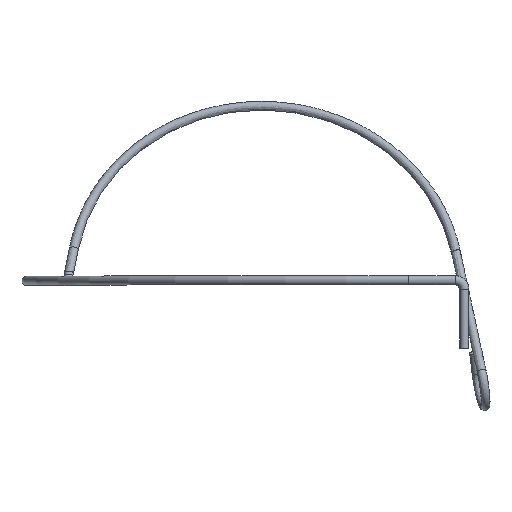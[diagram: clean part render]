
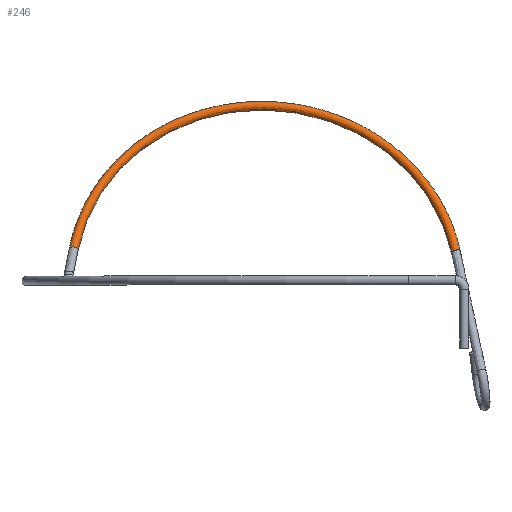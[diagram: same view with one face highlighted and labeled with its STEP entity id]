
A CAD part, top view. The second image highlights one B-rep face of the part: STEP entity #246.
In plain terms, the highlighted free-form (B-spline) face has degree [2, 2] with [9, 5] control points.
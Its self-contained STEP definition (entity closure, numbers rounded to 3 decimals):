
#42=FACE_OUTER_BOUND('',#56,.T.);
#56=EDGE_LOOP('',(#176,#177,#178,#179,#180,#181));
#69=CIRCLE('',#290,1.);
#70=CIRCLE('',#291,1.);
#71=CIRCLE('',#292,1.);
#72=CIRCLE('',#293,1.);
#73=CIRCLE('',#294,42.004);
#99=VERTEX_POINT('',#518);
#100=VERTEX_POINT('',#521);
#101=VERTEX_POINT('',#569);
#102=VERTEX_POINT('',#570);
#127=EDGE_CURVE('',#99,#100,#69,.T.);
#128=EDGE_CURVE('',#100,#99,#70,.T.);
#129=EDGE_CURVE('',#101,#102,#71,.T.);
#130=EDGE_CURVE('',#102,#101,#72,.T.);
#131=EDGE_CURVE('',#101,#100,#73,.T.);
#176=ORIENTED_EDGE('',*,*,#129,.T.);
#177=ORIENTED_EDGE('',*,*,#130,.T.);
#178=ORIENTED_EDGE('',*,*,#131,.T.);
#179=ORIENTED_EDGE('',*,*,#127,.F.);
#180=ORIENTED_EDGE('',*,*,#128,.F.);
#181=ORIENTED_EDGE('',*,*,#131,.F.);
#222=(
BOUNDED_SURFACE()
B_SPLINE_SURFACE(2,2,((#524,#525,#526,#527,#528),(#529,#530,#531,#532,#533),
(#534,#535,#536,#537,#538),(#539,#540,#541,#542,#543),(#544,#545,#546,#547,
#548),(#549,#550,#551,#552,#553),(#554,#555,#556,#557,#558),(#559,#560,
#561,#562,#563),(#564,#565,#566,#567,#568)),.UNSPECIFIED.,.T.,.F.,.F.)
B_SPLINE_SURFACE_WITH_KNOTS((3,2,2,2,3),(3,2,3),(0.,
1.571,3.142,4.712,6.283),(0.,
1.385,2.771),.UNSPECIFIED.)
GEOMETRIC_REPRESENTATION_ITEM()
RATIONAL_B_SPLINE_SURFACE(((1.,0.77,1.,0.77,1.),
(0.707,0.544,0.707,0.544,
0.707),(1.,0.77,1.,0.77,1.),(0.707,
0.544,0.707,0.544,0.707),
(1.,0.77,1.,0.77,1.),(0.707,0.544,
0.707,0.544,0.707),(1.,0.77,
1.,0.77,1.),(0.707,0.544,0.707,
0.544,0.707),(1.,0.77,1.,0.77,
1.)))
REPRESENTATION_ITEM('')
SURFACE()
);
#246=ADVANCED_FACE('',(#42),#222,.T.);
#290=AXIS2_PLACEMENT_3D('',#522,#345,#346);
#291=AXIS2_PLACEMENT_3D('',#523,#347,#348);
#292=AXIS2_PLACEMENT_3D('',#571,#349,#350);
#293=AXIS2_PLACEMENT_3D('',#572,#351,#352);
#294=AXIS2_PLACEMENT_3D('',#573,#353,#354);
#345=DIRECTION('center_axis',(0.278,-0.88,0.385));
#346=DIRECTION('ref_axis',(-0.96,-0.238,0.15));
#347=DIRECTION('center_axis',(0.278,-0.88,0.385));
#348=DIRECTION('ref_axis',(-0.96,-0.238,0.15));
#349=DIRECTION('center_axis',(0.089,0.906,-0.413));
#350=DIRECTION('ref_axis',(0.995,-0.097,0.));
#351=DIRECTION('center_axis',(0.089,0.906,-0.413));
#352=DIRECTION('ref_axis',(0.995,-0.097,0.));
#353=DIRECTION('center_axis',(-0.04,-0.411,-0.911));
#354=DIRECTION('ref_axis',(-0.983,0.178,-0.037));
#518=CARTESIAN_POINT('',(9.111,6.909,-9.554));
#521=CARTESIAN_POINT('',(8.111,6.26,-10.315));
#522=CARTESIAN_POINT('Origin',(9.07,6.498,-10.465));
#523=CARTESIAN_POINT('Origin',(9.07,6.498,-10.465));
#524=CARTESIAN_POINT('Ctrl Pts',(-74.389,7.082,-7.043));
#525=CARTESIAN_POINT('Ctrl Pts',(-68.216,38.245,-21.39));
#526=CARTESIAN_POINT('Ctrl Pts',(-33.387,37.899,-22.771));
#527=CARTESIAN_POINT('Ctrl Pts',(1.442,37.552,-24.153));
#528=CARTESIAN_POINT('Ctrl Pts',(8.111,6.26,-10.315));
#529=CARTESIAN_POINT('Ctrl Pts',(-74.429,6.67,-7.954));
#530=CARTESIAN_POINT('Ctrl Pts',(-68.257,37.834,-22.301));
#531=CARTESIAN_POINT('Ctrl Pts',(-33.427,37.487,-23.682));
#532=CARTESIAN_POINT('Ctrl Pts',(1.402,37.141,-25.063));
#533=CARTESIAN_POINT('Ctrl Pts',(8.07,5.849,-11.226));
#534=CARTESIAN_POINT('Ctrl Pts',(-75.424,6.768,-7.954));
#535=CARTESIAN_POINT('Ctrl Pts',(-69.178,38.684,-22.643));
#536=CARTESIAN_POINT('Ctrl Pts',(-33.524,38.396,-24.088));
#537=CARTESIAN_POINT('Ctrl Pts',(2.131,38.109,-25.533));
#538=CARTESIAN_POINT('Ctrl Pts',(9.03,6.087,-11.375));
#539=CARTESIAN_POINT('Ctrl Pts',(-76.419,6.865,-7.954));
#540=CARTESIAN_POINT('Ctrl Pts',(-70.1,39.533,-22.986));
#541=CARTESIAN_POINT('Ctrl Pts',(-33.62,39.305,-24.494));
#542=CARTESIAN_POINT('Ctrl Pts',(2.86,39.077,-26.002));
#543=CARTESIAN_POINT('Ctrl Pts',(9.99,6.324,-11.525));
#544=CARTESIAN_POINT('Ctrl Pts',(-76.379,7.276,-7.043));
#545=CARTESIAN_POINT('Ctrl Pts',(-70.06,39.944,-22.076));
#546=CARTESIAN_POINT('Ctrl Pts',(-33.58,39.716,-23.584));
#547=CARTESIAN_POINT('Ctrl Pts',(2.9,39.488,-25.091));
#548=CARTESIAN_POINT('Ctrl Pts',(10.03,6.736,-10.615));
#549=CARTESIAN_POINT('Ctrl Pts',(-76.339,7.687,-6.132));
#550=CARTESIAN_POINT('Ctrl Pts',(-70.02,40.356,-21.165));
#551=CARTESIAN_POINT('Ctrl Pts',(-33.54,40.127,-22.673));
#552=CARTESIAN_POINT('Ctrl Pts',(2.941,39.899,-24.181));
#553=CARTESIAN_POINT('Ctrl Pts',(10.07,7.147,-9.704));
#554=CARTESIAN_POINT('Ctrl Pts',(-75.344,7.59,-6.132));
#555=CARTESIAN_POINT('Ctrl Pts',(-69.098,39.506,-20.822));
#556=CARTESIAN_POINT('Ctrl Pts',(-33.443,39.219,-22.267));
#557=CARTESIAN_POINT('Ctrl Pts',(2.212,38.931,-23.711));
#558=CARTESIAN_POINT('Ctrl Pts',(9.111,6.909,-9.554));
#559=CARTESIAN_POINT('Ctrl Pts',(-74.348,7.493,-6.132));
#560=CARTESIAN_POINT('Ctrl Pts',(-68.176,38.657,-20.479));
#561=CARTESIAN_POINT('Ctrl Pts',(-33.347,38.31,-21.861));
#562=CARTESIAN_POINT('Ctrl Pts',(1.483,37.963,-23.242));
#563=CARTESIAN_POINT('Ctrl Pts',(8.151,6.672,-9.404));
#564=CARTESIAN_POINT('Ctrl Pts',(-74.389,7.082,-7.043));
#565=CARTESIAN_POINT('Ctrl Pts',(-68.216,38.245,-21.39));
#566=CARTESIAN_POINT('Ctrl Pts',(-33.387,37.899,-22.771));
#567=CARTESIAN_POINT('Ctrl Pts',(1.442,37.552,-24.153));
#568=CARTESIAN_POINT('Ctrl Pts',(8.111,6.26,-10.315));
#569=CARTESIAN_POINT('',(-74.389,7.082,-7.043));
#570=CARTESIAN_POINT('',(-75.344,7.59,-6.132));
#571=CARTESIAN_POINT('Origin',(-75.384,7.179,-7.043));
#572=CARTESIAN_POINT('Origin',(-75.384,7.179,-7.043));
#573=CARTESIAN_POINT('Origin',(-33.083,-0.386,-5.494));
